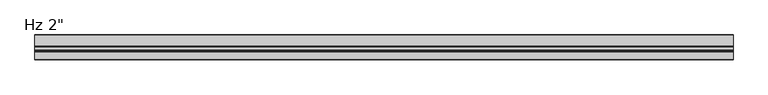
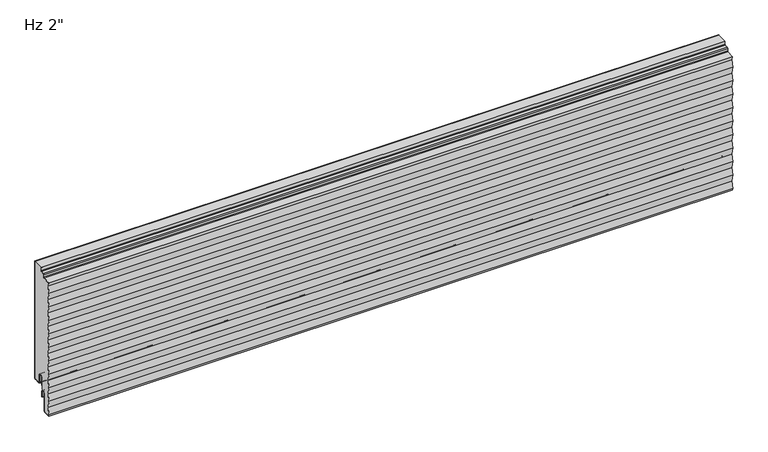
"""IFC4 building model written with IfcOpenShell, lengths in millimetres: plate geometry."""

from ifc_helpers import new_model, si_unit, point, frame, frame_2d, origin, place, context, project, spatial, polyline, circle_curve, trimmed, segment, composite_curve, outline, extrude, source, transform, mapped, element, save


def plate_4ac1172a(model_context):
    return source(origin(), model_context, "Body", "SweptSolid", [
        extrude(outline(composite_curve([segment(polyline([(-22.8125, 259.7620957), (-22.8125, 266.4), (-1.0, 266.4), (-1.0, 3.175)]), True, "CONTINUOUS"), segment(trimmed(circle_curve(frame_2d((-2.38125, 3.175)), 1.38125), [point((-1.0, 3.175))], [point((-2.38125, 1.79375))], False, "CARTESIAN"), True, "CONTINUOUS"), segment(polyline([(-2.38125, 1.79375), (-15.08125, 1.79375)]), True, "CONTINUOUS"), segment(trimmed(circle_curve(frame_2d((-15.08125, 3.175)), 1.38125), [point((-15.08125, 1.79375))], [point((-16.4625, 3.175))], False, "CARTESIAN"), True, "CONTINUOUS"), segment(polyline([(-16.4625, 3.175), (-16.4625, 19.05)]), True, "CONTINUOUS"), segment(trimmed(circle_curve(frame_2d((-21.43125, 19.05)), 4.96875), [point((-16.4625, 19.05))], [point((-26.4, 19.05))], True, "CARTESIAN"), True, "CONTINUOUS"), segment(polyline([(-26.4, 19.05), (-26.4, -6.9375), (-30.95625, -6.9375)]), True, "CONTINUOUS"), segment(trimmed(circle_curve(frame_2d((-30.95625, -11.90625)), 4.96875), [point((-30.95625, -6.9375))], [point((-35.925, -11.90625))], True, "CARTESIAN"), True, "CONTINUOUS"), segment(polyline([(-35.925, -11.90625), (-35.925, -50.0895546)]), True, "CONTINUOUS"), segment(trimmed(circle_curve(frame_2d((-37.30625, -50.0895546)), 1.38125), [point((-35.925, -50.0895546))], [point((-37.233961, -51.4689117))], False, "CARTESIAN"), True, "CONTINUOUS"), segment(polyline([(-37.233961, -51.4689117), (-50.4085109, -52.1593606), (-50.9378194, -48.8511825), (-48.4994194, -33.6111825), (-50.9378194, -18.3711825), (-48.4994194, -3.1311825), (-50.9378194, 12.1088175), (-48.4994194, 27.3488175), (-50.9378194, 42.5888175), (-48.4994194, 57.8288175), (-50.9378194, 73.0688175), (-48.4994194, 88.3088175), (-50.9378194, 103.5488175), (-48.4994194, 118.7888175), (-50.9378194, 134.0288175), (-48.4994194, 149.2688175), (-50.9378194, 164.5088175), (-48.4994194, 179.7488175), (-50.9378194, 194.9888175), (-48.4994194, 210.2288175), (-50.9357632, 225.4559664), (-48.4994194, 240.6831154), (-49.588775, 247.4915878), (-34.7895807, 248.2671807)]), True, "CONTINUOUS"), segment(trimmed(circle_curve(frame_2d((-34.925, 250.8511347)), 2.5875), [point((-34.7895807, 248.2671807))], [point((-32.3375, 250.8511347))], True, "CARTESIAN"), True, "CONTINUOUS"), segment(polyline([(-32.3375, 250.8511347), (-32.3375, 255.4967085)]), True, "CONTINUOUS"), segment(trimmed(circle_curve(frame_2d((-30.95625, 255.4967085)), 1.38125), [point((-32.3375, 255.4967085))], [point((-31.028539, 256.8760655))], False, "CARTESIAN"), True, "CONTINUOUS"), segment(polyline([(-31.028539, 256.8760655), (-25.2645807, 257.1781418)]), True, "CONTINUOUS"), segment(trimmed(circle_curve(frame_2d((-25.4, 259.7620957)), 2.5875), [point((-25.2645807, 257.1781418))], [point((-22.8125, 259.7620957))], True, "CARTESIAN"), True, "CONTINUOUS")], self_intersect=False)), frame((-730.0, 0.0, 0.0), z_axis=(1.0, 0.0, 0.0), x_axis=(0.0, 1.0, 0.0)), (0.0, 0.0, 1.0), 1460.0),
        extrude(outline(composite_curve([segment(polyline([(-25.4, 0.79375), (-26.4, 0.79375), (-26.4, 19.05)]), True, "CONTINUOUS"), segment(trimmed(circle_curve(frame_2d((-21.43125, 19.05)), 4.96875), [point((-26.4, 19.05))], [point((-16.4625, 19.05))], False, "CARTESIAN"), True, "CONTINUOUS"), segment(polyline([(-16.4625, 19.05), (-16.4625, 3.175)]), True, "CONTINUOUS"), segment(trimmed(circle_curve(frame_2d((-15.08125, 3.175)), 1.38125), [point((-16.4625, 3.175))], [point((-15.08125, 1.79375))], True, "CARTESIAN"), True, "CONTINUOUS"), segment(polyline([(-15.08125, 1.79375), (-2.38125, 1.79375)]), True, "CONTINUOUS"), segment(trimmed(circle_curve(frame_2d((-2.38125, 3.175)), 1.38125), [point((-2.38125, 1.79375))], [point((-1.0, 3.175))], True, "CARTESIAN"), True, "CONTINUOUS"), segment(polyline([(-1.0, 3.175), (-1.0, 266.4), (0.0, 266.4), (0.0, 3.175)]), True, "CONTINUOUS"), segment(trimmed(circle_curve(frame_2d((-2.38125, 3.175)), 2.38125), [point((0.0, 3.175))], [point((-2.38125, 0.79375))], False, "CARTESIAN"), True, "CONTINUOUS"), segment(polyline([(-2.38125, 0.79375), (-15.08125, 0.79375)]), True, "CONTINUOUS"), segment(trimmed(circle_curve(frame_2d((-15.08125, 3.175)), 2.38125), [point((-15.08125, 0.79375))], [point((-17.4625, 3.175))], False, "CARTESIAN"), True, "CONTINUOUS"), segment(polyline([(-17.4625, 3.175), (-17.4625, 19.05)]), True, "CONTINUOUS"), segment(trimmed(circle_curve(frame_2d((-21.43125, 19.05)), 3.96875), [point((-17.4625, 19.05))], [point((-25.4, 19.05))], True, "CARTESIAN"), True, "CONTINUOUS"), segment(polyline([(-25.4, 19.05), (-25.4, 0.79375)]), True, "CONTINUOUS")], self_intersect=False)), frame((-730.0, 0.0, 0.0), z_axis=(1.0, 0.0, 0.0), x_axis=(0.0, 1.0, 0.0)), (0.0, 0.0, 1.0), 1460.0),
        extrude(outline(composite_curve([segment(trimmed(circle_curve(frame_2d((-26.19375, -23.2314549)), 0.79375), [point((-25.4, -23.2314549))], [point((-26.9875, -23.2314549))], False, "CARTESIAN"), True, "CONTINUOUS"), segment(polyline([(-26.9875, -23.2314549), (-26.9875, -11.9205174)]), True, "CONTINUOUS"), segment(trimmed(circle_curve(frame_2d((-30.95625, -11.9205174)), 3.96875), [point((-26.9875, -11.9205174))], [point((-34.925, -11.9205174))], True, "CARTESIAN"), True, "CONTINUOUS"), segment(polyline([(-34.925, -11.9205174), (-34.925, -50.1038221)]), True, "CONTINUOUS"), segment(trimmed(circle_curve(frame_2d((-37.30625, -50.1038221)), 2.38125), [point((-34.925, -50.1038221))], [point((-37.181625, -52.4818086))], False, "CARTESIAN"), True, "CONTINUOUS"), segment(polyline([(-37.181625, -52.4818086), (-51.3543553, -53.22457), (-52.0509395, -48.8709186), (-49.6125395, -33.6309186), (-52.0509395, -18.3909186), (-49.6125395, -3.1509186), (-52.0509395, 12.0890814), (-49.6125395, 27.3290814), (-52.0509395, 42.5690814), (-49.6125395, 57.8090814), (-52.0509395, 73.0490814), (-49.6125395, 88.2890814), (-52.0509395, 103.5290814), (-49.6125395, 118.7690814), (-52.0509395, 134.0090814), (-49.6125395, 149.2490814), (-52.0509395, 164.4890814), (-49.6125395, 179.7290814), (-52.0509395, 194.9690814), (-49.6125395, 210.2090814), (-52.0347341, 225.3477976), (-49.6125395, 240.4865139), (-50.8827208, 248.4251473), (-34.8419167, 249.2658103)]), True, "CONTINUOUS"), segment(trimmed(circle_curve(frame_2d((-34.925, 250.8511347)), 1.5875), [point((-34.8419167, 249.2658103))], [point((-33.3375, 250.8511347))], True, "CARTESIAN"), True, "CONTINUOUS"), segment(polyline([(-33.3375, 250.8511347), (-33.3375, 255.4824411)]), True, "CONTINUOUS"), segment(trimmed(circle_curve(frame_2d((-30.95625, 255.4824411)), 2.38125), [point((-33.3375, 255.4824411))], [point((-31.080875, 257.8604276))], False, "CARTESIAN"), True, "CONTINUOUS"), segment(polyline([(-31.080875, 257.8604276), (-25.3169167, 258.1625039)]), True, "CONTINUOUS"), segment(trimmed(circle_curve(frame_2d((-25.4, 259.7478283)), 1.5875), [point((-25.3169167, 258.1625039))], [point((-23.8125, 259.7478283))], True, "CARTESIAN"), True, "CONTINUOUS"), segment(polyline([(-23.8125, 259.7478283), (-23.8125, 266.4), (-22.8125, 266.4), (-22.8125, 259.7478283)]), True, "CONTINUOUS"), segment(trimmed(circle_curve(frame_2d((-25.4, 259.7478283)), 2.5875), [point((-22.8125, 259.7478283))], [point((-25.2645807, 257.1638744))], False, "CARTESIAN"), True, "CONTINUOUS"), segment(polyline([(-25.2645807, 257.1638744), (-31.028539, 256.8617981)]), True, "CONTINUOUS"), segment(trimmed(circle_curve(frame_2d((-30.95625, 255.4824411)), 1.38125), [point((-31.028539, 256.8617981))], [point((-32.3375, 255.4824411))], True, "CARTESIAN"), True, "CONTINUOUS"), segment(polyline([(-32.3375, 255.4824411), (-32.3375, 250.8511347)]), True, "CONTINUOUS"), segment(trimmed(circle_curve(frame_2d((-34.925, 250.8511347)), 2.5875), [point((-32.3375, 250.8511347))], [point((-34.7895807, 248.2671807))], False, "CARTESIAN"), True, "CONTINUOUS"), segment(polyline([(-34.7895807, 248.2671807), (-49.7195357, 247.4847349), (-48.5998204, 240.4865139), (-51.022015, 225.3477976), (-48.5998204, 210.2090814), (-51.0382204, 194.9690814), (-48.5998204, 179.7290814), (-51.0382204, 164.4890814), (-48.5998204, 149.2490814), (-51.0382204, 134.0090814), (-48.5998204, 118.7690814), (-51.0382204, 103.5290814), (-48.5998204, 88.2890814), (-51.0382204, 73.0490814), (-48.5998204, 57.8090814), (-51.0382204, 42.5690814), (-48.5998204, 27.3290814), (-51.0382204, 12.0890814), (-48.5998204, -3.1509186), (-51.0382204, -18.3909186), (-48.5998204, -33.6309186), (-51.0382204, -48.8709186), (-50.5089447, -52.1788915), (-37.233961, -51.4831791)]), True, "CONTINUOUS"), segment(trimmed(circle_curve(frame_2d((-37.30625, -50.1038221)), 1.38125), [point((-37.233961, -51.4831791))], [point((-35.925, -50.1038221))], True, "CARTESIAN"), True, "CONTINUOUS"), segment(polyline([(-35.925, -50.1038221), (-35.925, -11.9205174)]), True, "CONTINUOUS"), segment(trimmed(circle_curve(frame_2d((-30.95625, -11.9205174)), 4.96875), [point((-35.925, -11.9205174))], [point((-25.9875, -11.9205174))], False, "CARTESIAN"), True, "CONTINUOUS"), segment(polyline([(-25.9875, -11.9205174), (-26.19375, -13.5080174), (-25.4, -13.5080174), (-25.4, -23.2314549)]), True, "CONTINUOUS")], self_intersect=False)), frame((-730.0, 0.0, 0.0), z_axis=(1.0, 0.0, 0.0), x_axis=(0.0, 1.0, 0.0)), (0.0, 0.0, 1.0), 1460.0),
    ])


if __name__ == "__main__":
    model = new_model("IFC4")
    model_context = context("Model", 3, world=origin())
    ifc_project = project(units=[si_unit("LENGTHUNIT", "METRE", prefix="MILLI")], contexts=[model_context])
    site = spatial("IfcSite", under=ifc_project)
    building = spatial("IfcBuilding", under=site)
    placement = place(None, origin())
    plate_shape = plate_4ac1172a(model_context)
    element("IfcPlate", 1, ObjectType="KIP-12-DWTR-R19-CP-Hz-S : Hz 2\"", at=placement, inside=building, context=model_context, shape_type="MappedRepresentation", body=[
        mapped(plate_shape, transform((0.0, 0.0, 0.0), x_axis=(1.0, 0.0, 0.0), y_axis=(0.0, 1.0, 0.0), z_axis=(0.0, 0.0, 1.0))),
    ])
    save(model, "model.ifc")
